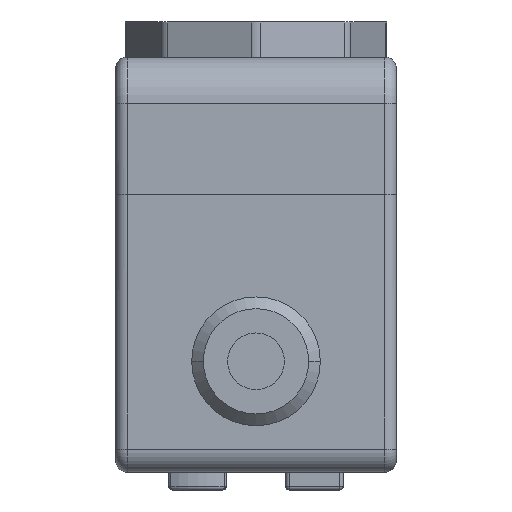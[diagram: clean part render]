
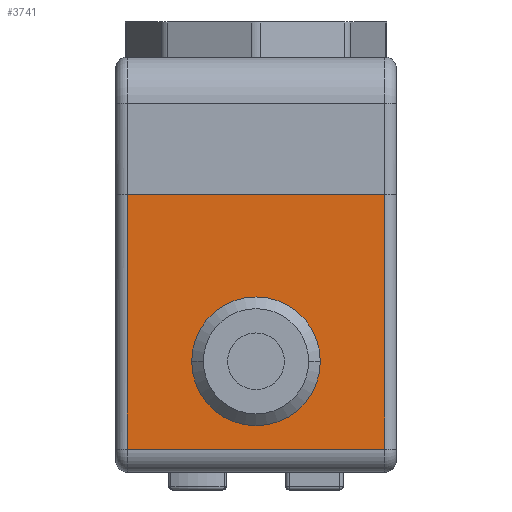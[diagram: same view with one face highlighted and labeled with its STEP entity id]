
A CAD part, front view. The second image highlights one B-rep face of the part: STEP entity #3741.
In plain terms, the highlighted planar face has unit normal (0, -1, 0).
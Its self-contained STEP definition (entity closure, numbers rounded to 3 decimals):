
#1041=CARTESIAN_POINT('',(0.,-42.,-28.5));
#1042=DIRECTION('',(0.,-1.,0.));
#1043=DIRECTION('',(1.,0.,0.));
#1044=AXIS2_PLACEMENT_3D('',#1041,#1042,#1043);
#1046=CARTESIAN_POINT('',(0.,-42.,-28.5));
#1047=DIRECTION('',(0.,-1.,0.));
#1048=DIRECTION('',(-1.,0.,0.));
#1049=AXIS2_PLACEMENT_3D('',#1046,#1047,#1048);
#1051=DIRECTION('',(0.,0.,1.));
#1052=VECTOR('',#1051,21.751);
#1053=CARTESIAN_POINT('',(-11.,-42.,-36.001));
#1054=LINE('',#1053,#1052);
#1055=DIRECTION('',(1.,0.,0.));
#1056=VECTOR('',#1055,22.);
#1057=CARTESIAN_POINT('',(-11.,-42.,-14.25));
#1058=LINE('',#1057,#1056);
#1059=DIRECTION('',(0.,0.,-1.));
#1060=VECTOR('',#1059,21.751);
#1061=CARTESIAN_POINT('',(11.,-42.,-14.25));
#1062=LINE('',#1061,#1060);
#1132=DIRECTION('',(1.,0.,0.));
#1133=VECTOR('',#1132,22.);
#1134=CARTESIAN_POINT('',(-11.,-42.,-36.001));
#1135=LINE('',#1134,#1133);
#1801=CARTESIAN_POINT('',(5.5,-42.,-28.5));
#1802=CARTESIAN_POINT('',(-5.5,-42.,-28.5));
#1803=VERTEX_POINT('',#1801);
#1804=VERTEX_POINT('',#1802);
#2013=CARTESIAN_POINT('',(-11.,-42.,-36.002));
#2014=VERTEX_POINT('',#2013);
#2017=CARTESIAN_POINT('',(-11.,-42.,-14.25));
#2018=VERTEX_POINT('',#2017);
#2049=CARTESIAN_POINT('',(11.,-42.,-14.25));
#2050=VERTEX_POINT('',#2049);
#2053=CARTESIAN_POINT('',(11.,-42.,-36.001));
#2054=VERTEX_POINT('',#2053);
#3723=CARTESIAN_POINT('',(-12.,-42.,-14.25));
#3724=DIRECTION('',(0.,-1.,0.));
#3725=DIRECTION('',(0.,0.,-1.));
#3726=AXIS2_PLACEMENT_3D('',#3723,#3724,#3725);
#3727=PLANE('',#3726);
#3728=ORIENTED_EDGE('',*,*,#3716,.T.);
#3729=ORIENTED_EDGE('',*,*,#3691,.T.);
#3730=ORIENTED_EDGE('',*,*,#2234,.T.);
#3732=ORIENTED_EDGE('',*,*,#3731,.F.);
#3733=EDGE_LOOP('',(#3728,#3729,#3730,#3732));
#3734=FACE_OUTER_BOUND('',#3733,.F.);
#3736=ORIENTED_EDGE('',*,*,#3735,.T.);
#3738=ORIENTED_EDGE('',*,*,#3737,.T.);
#3739=EDGE_LOOP('',(#3736,#3738));
#3740=FACE_BOUND('',#3739,.F.);
#3741=ADVANCED_FACE('',(#3734,#3740),#3727,.T.);
#1045=CIRCLE('',#1044,5.5);
#1050=CIRCLE('',#1049,5.5);
#2234=EDGE_CURVE('',#2050,#2054,#1062,.T.);
#3691=EDGE_CURVE('',#2018,#2050,#1058,.T.);
#3716=EDGE_CURVE('',#2014,#2018,#1054,.T.);
#3731=EDGE_CURVE('',#2014,#2054,#1135,.T.);
#3735=EDGE_CURVE('',#1803,#1804,#1045,.T.);
#3737=EDGE_CURVE('',#1804,#1803,#1050,.T.);
